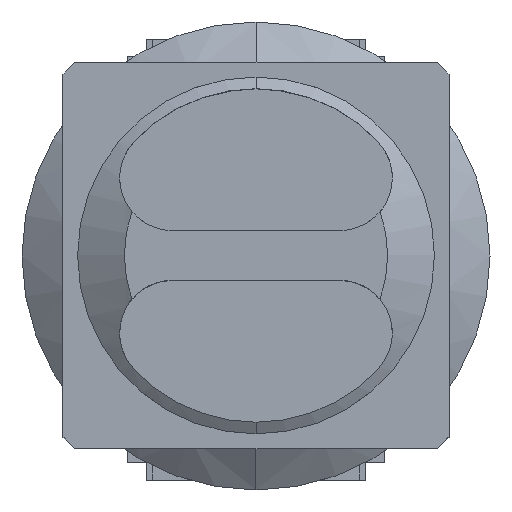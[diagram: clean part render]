
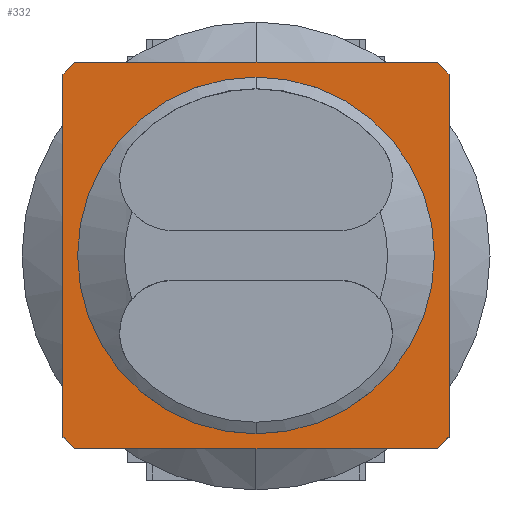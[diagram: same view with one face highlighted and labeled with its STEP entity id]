
A CAD part, top view. The second image highlights one B-rep face of the part: STEP entity #332.
In plain terms, the highlighted planar face has unit normal (0, 0, 1).
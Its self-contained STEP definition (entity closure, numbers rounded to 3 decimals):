
#332=ADVANCED_FACE('',(#775,#776),#777,.T.);
#775=FACE_BOUND('',#1353,.T.);
#776=FACE_OUTER_BOUND('',#1354,.T.);
#777=PLANE('',#1355);
#1353=EDGE_LOOP('',(#2398,#2399,#2400));
#1354=EDGE_LOOP('',(#2401,#2402,#2403,#2404,#2405,#2406,#2407,#2408));
#1355=AXIS2_PLACEMENT_3D('',#2409,#2410,#2411);
#2398=ORIENTED_EDGE('',*,*,#3905,.T.);
#2399=ORIENTED_EDGE('',*,*,#3949,.T.);
#2400=ORIENTED_EDGE('',*,*,#3906,.T.);
#2401=ORIENTED_EDGE('',*,*,#4027,.F.);
#2402=ORIENTED_EDGE('',*,*,#4041,.F.);
#2403=ORIENTED_EDGE('',*,*,#4039,.F.);
#2404=ORIENTED_EDGE('',*,*,#4037,.F.);
#2405=ORIENTED_EDGE('',*,*,#4035,.F.);
#2406=ORIENTED_EDGE('',*,*,#4033,.F.);
#2407=ORIENTED_EDGE('',*,*,#4031,.F.);
#2408=ORIENTED_EDGE('',*,*,#4029,.F.);
#2409=CARTESIAN_POINT('',(0.,0.,428.5));
#2410=DIRECTION('',(0.0,0.0,1.0));
#2411=DIRECTION('',(1.0,0.0,0.0));
#3905=EDGE_CURVE('',#4641,#4639,#4642,.T.);
#3906=EDGE_CURVE('',#4643,#4641,#4644,.T.);
#3949=EDGE_CURVE('',#4639,#4643,#4714,.T.);
#4027=EDGE_CURVE('',#4830,#4832,#4833,.T.);
#4029=EDGE_CURVE('',#4832,#4835,#4836,.T.);
#4031=EDGE_CURVE('',#4835,#4838,#4839,.T.);
#4033=EDGE_CURVE('',#4838,#4841,#4842,.T.);
#4035=EDGE_CURVE('',#4841,#4844,#4845,.T.);
#4037=EDGE_CURVE('',#4844,#4847,#4848,.T.);
#4039=EDGE_CURVE('',#4847,#4850,#4851,.T.);
#4041=EDGE_CURVE('',#4850,#4830,#4853,.T.);
#4639=VERTEX_POINT('',#6112);
#4641=VERTEX_POINT('',#6115);
#4642=CIRCLE('',#6116,30.5);
#4643=VERTEX_POINT('',#6117);
#4644=CIRCLE('',#6118,30.5);
#4714=CIRCLE('',#6347,30.5);
#4830=VERTEX_POINT('',#6588);
#4832=VERTEX_POINT('',#6591);
#4833=LINE('',#6592,#6593);
#4835=VERTEX_POINT('',#6596);
#4836=LINE('',#6597,#6598);
#4838=VERTEX_POINT('',#6601);
#4839=LINE('',#6602,#6603);
#4841=VERTEX_POINT('',#6606);
#4842=LINE('',#6607,#6608);
#4844=VERTEX_POINT('',#6611);
#4845=LINE('',#6612,#6613);
#4847=VERTEX_POINT('',#6616);
#4848=LINE('',#6617,#6618);
#4850=VERTEX_POINT('',#6621);
#4851=LINE('',#6622,#6623);
#4853=LINE('',#6626,#6627);
#6112=CARTESIAN_POINT('',(0.,30.5,428.5));
#6115=CARTESIAN_POINT('',(-30.5,0.,428.5));
#6116=AXIS2_PLACEMENT_3D('',#7716,#7717,#7718);
#6117=CARTESIAN_POINT('',(0.,-30.5,428.5));
#6118=AXIS2_PLACEMENT_3D('',#7719,#7720,#7721);
#6347=AXIS2_PLACEMENT_3D('',#7772,#7773,#7774);
#6588=CARTESIAN_POINT('',(-33.0,-31.0,428.5));
#6591=CARTESIAN_POINT('',(-33.0,31.0,428.5));
#6592=CARTESIAN_POINT('',(-33.0,31.0,428.5));
#6593=VECTOR('',#7881,1.0);
#6596=CARTESIAN_POINT('',(-31.0,33.0,428.5));
#6597=CARTESIAN_POINT('',(-31.0,33.0,428.5));
#6598=VECTOR('',#7883,1.);
#6601=CARTESIAN_POINT('',(31.0,33.0,428.5));
#6602=CARTESIAN_POINT('',(31.0,33.0,428.5));
#6603=VECTOR('',#7885,1.0);
#6606=CARTESIAN_POINT('',(33.0,31.0,428.5));
#6607=CARTESIAN_POINT('',(33.0,31.0,428.5));
#6608=VECTOR('',#7887,1.);
#6611=CARTESIAN_POINT('',(33.0,-31.0,428.5));
#6612=CARTESIAN_POINT('',(33.0,-31.0,428.5));
#6613=VECTOR('',#7889,1.0);
#6616=CARTESIAN_POINT('',(31.0,-33.0,428.5));
#6617=CARTESIAN_POINT('',(31.0,-33.0,428.5));
#6618=VECTOR('',#7891,1.);
#6621=CARTESIAN_POINT('',(-31.0,-33.0,428.5));
#6622=CARTESIAN_POINT('',(-31.0,-33.0,428.5));
#6623=VECTOR('',#7893,1.0);
#6626=CARTESIAN_POINT('',(-33.0,-31.0,428.5));
#6627=VECTOR('',#7895,1.);
#7716=CARTESIAN_POINT('',(0.,0.0,428.5));
#7717=DIRECTION('',(0.0,0.0,-1.0));
#7718=DIRECTION('',(1.0,0.0,0.0));
#7719=CARTESIAN_POINT('',(0.,0.0,428.5));
#7720=DIRECTION('',(0.0,0.0,-1.0));
#7721=DIRECTION('',(1.0,0.0,0.0));
#7772=CARTESIAN_POINT('',(0.,0.0,428.5));
#7773=DIRECTION('',(0.0,0.0,-1.0));
#7774=DIRECTION('',(1.0,0.0,0.0));
#7881=DIRECTION('',(0.0,1.0,0.0));
#7883=DIRECTION('',(0.707,0.707,0.));
#7885=DIRECTION('',(1.0,0.0,0.0));
#7887=DIRECTION('',(0.707,-0.707,0.));
#7889=DIRECTION('',(0.0,-1.0,0.0));
#7891=DIRECTION('',(-0.707,-0.707,0.));
#7893=DIRECTION('',(-1.0,0.0,0.0));
#7895=DIRECTION('',(-0.707,0.707,0.));
